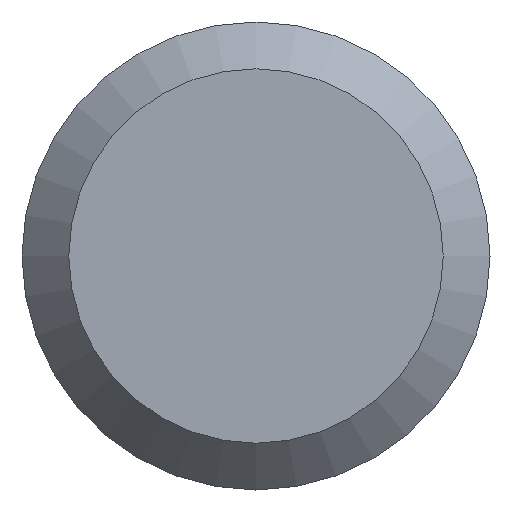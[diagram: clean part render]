
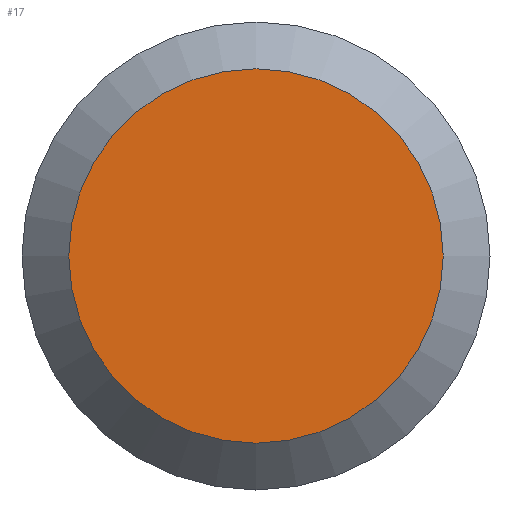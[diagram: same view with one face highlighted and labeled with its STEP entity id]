
A CAD part, left-side view. The second image highlights one B-rep face of the part: STEP entity #17.
In plain terms, the highlighted planar face has unit normal (-1, 0, 0).
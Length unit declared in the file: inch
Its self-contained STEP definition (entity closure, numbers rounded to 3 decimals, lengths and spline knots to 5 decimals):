
#8 = EDGE_LOOP ( 'NONE', ( #35 ) ) ;
#17 = ADVANCED_FACE ( 'NONE', ( #101 ), #142, .F. ) ;
#27 = CARTESIAN_POINT ( 'NONE',  ( 0., 0., -0.0544 ) ) ;
#33 = VERTEX_POINT ( 'NONE', #27 ) ;
#35 = ORIENTED_EDGE ( 'NONE', *, *, #179, .T. ) ;
#44 = CARTESIAN_POINT ( 'NONE',  ( 0., 0., 0. ) ) ;
#59 = CIRCLE ( 'NONE', #126, 0.0544 ) ;
#101 = FACE_OUTER_BOUND ( 'NONE', #8, .T. ) ;
#121 = DIRECTION ( 'NONE',  ( 0., 0., -1. ) ) ;
#126 = AXIS2_PLACEMENT_3D ( 'NONE', #44, #128, #121 ) ;
#128 = DIRECTION ( 'NONE',  ( -1., 0., 0. ) ) ;
#142 = PLANE ( 'NONE',  #152 ) ;
#152 = AXIS2_PLACEMENT_3D ( 'NONE', #228, #154, #166 ) ;
#154 = DIRECTION ( 'NONE',  ( 1., 0., 0. ) ) ;
#166 = DIRECTION ( 'NONE',  ( 0., 0., -1. ) ) ;
#179 = EDGE_CURVE ( 'NONE', #33, #33, #59, .T. ) ;
#228 = CARTESIAN_POINT ( 'NONE',  ( 0., 0.068, 0. ) ) ;
